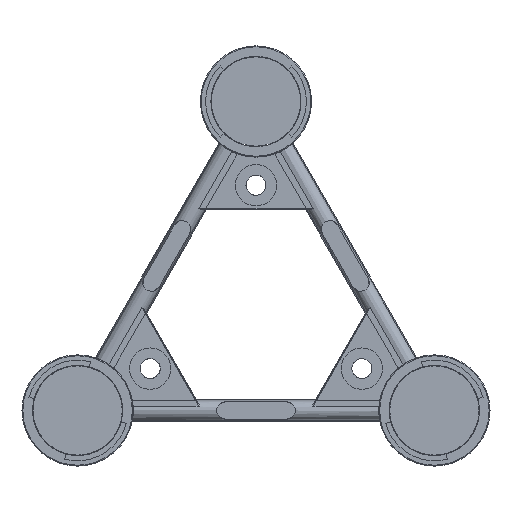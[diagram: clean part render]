
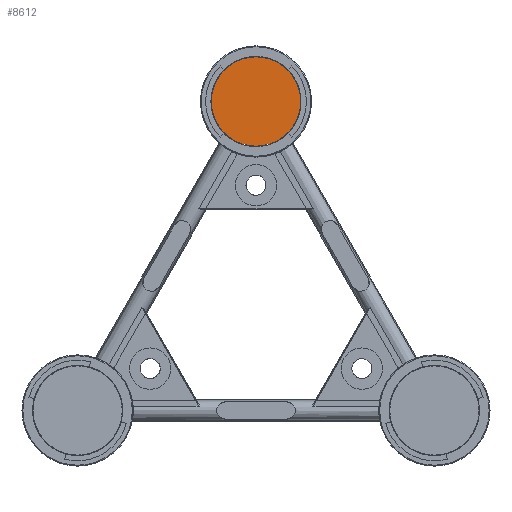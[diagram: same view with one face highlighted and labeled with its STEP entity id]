
A CAD part, left-side view. The second image highlights one B-rep face of the part: STEP entity #8612.
In plain terms, the highlighted planar face has unit normal (-1, 0, 0).
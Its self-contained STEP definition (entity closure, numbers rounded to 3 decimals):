
#41=CIRCLE('',#9515,25.4);
#1205=FACE_OUTER_BOUND('',#1937,.T.);
#1937=EDGE_LOOP('',(#6039));
#3715=VERTEX_POINT('',#13683);
#4525=EDGE_CURVE('',#3715,#3715,#41,.T.);
#6039=ORIENTED_EDGE('',*,*,#4525,.F.);
#7529=PLANE('',#9518);
#8612=ADVANCED_FACE('',(#1205),#7529,.T.);
#9515=AXIS2_PLACEMENT_3D('',#13684,#11409,#11410);
#9518=AXIS2_PLACEMENT_3D('',#13687,#11415,#11416);
#11409=DIRECTION('center_axis',(1.,0.,0.));
#11410=DIRECTION('ref_axis',(0.,-1.,0.));
#11415=DIRECTION('center_axis',(-1.,0.,0.));
#11416=DIRECTION('ref_axis',(0.,-1.,0.));
#13683=CARTESIAN_POINT('',(0.,126.9,175.803));
#13684=CARTESIAN_POINT('Origin',(0.,101.5,
175.803));
#13687=CARTESIAN_POINT('Origin',(0.,101.5,
175.803));
